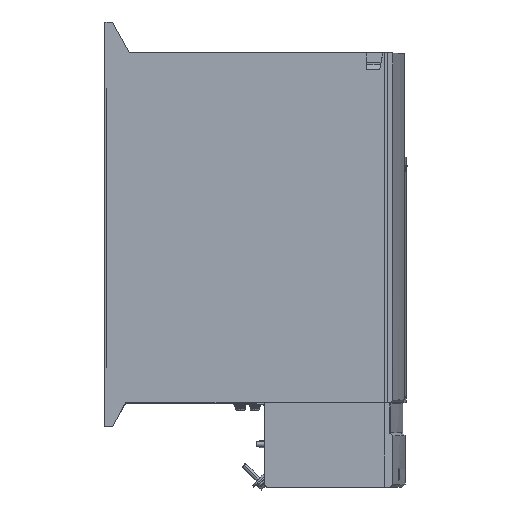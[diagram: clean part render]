
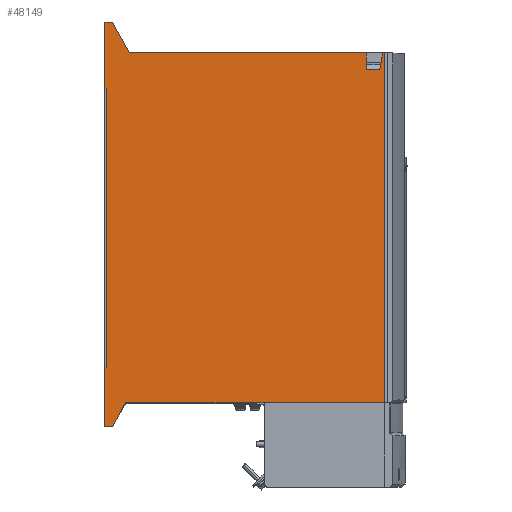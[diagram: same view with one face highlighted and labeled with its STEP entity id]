
A CAD part, top view. The second image highlights one B-rep face of the part: STEP entity #48149.
In plain terms, the highlighted planar face has unit normal (0, 0, 1) as drawn and (-1, 0, 0) by its records, which use the part's own axes.
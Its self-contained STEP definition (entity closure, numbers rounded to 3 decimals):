
#903 = EDGE_CURVE ( 'NONE', #97810, #115041, #116212, .T. ) ;
#2513 = CARTESIAN_POINT ( 'NONE',  ( -165., -19.5, 0. ) ) ;
#2800 = VECTOR ( 'NONE', #90644, 1000. ) ;
#4545 = CARTESIAN_POINT ( 'NONE',  ( -165., -19.5, 6.3 ) ) ;
#4649 = CARTESIAN_POINT ( 'NONE',  ( -165., 290., 216.709 ) ) ;
#5130 = CARTESIAN_POINT ( 'NONE',  ( -165., 290., 230.303 ) ) ;
#5271 = LINE ( 'NONE', #110428, #6246 ) ;
#6246 = VECTOR ( 'NONE', #45985, 1000. ) ;
#6581 = VECTOR ( 'NONE', #72841, 1000. ) ;
#7126 = DIRECTION ( 'NONE',  ( 0., 0., -1. ) ) ;
#7217 = CARTESIAN_POINT ( 'NONE',  ( -165., 290., 231.756 ) ) ;
#7991 = CARTESIAN_POINT ( 'NONE',  ( -165., 275.944, 0. ) ) ;
#8684 = DIRECTION ( 'NONE',  ( -1., 0., 0. ) ) ;
#9479 = LINE ( 'NONE', #7991, #6581 ) ;
#10113 = LINE ( 'NONE', #46988, #53268 ) ;
#10386 = VECTOR ( 'NONE', #70680, 1000. ) ;
#12027 = LINE ( 'NONE', #134929, #10386 ) ;
#17988 = VECTOR ( 'NONE', #57668, 1000. ) ;
#18248 = LINE ( 'NONE', #25414, #17988 ) ;
#18969 = FACE_OUTER_BOUND ( 'NONE', #44296, .T. ) ;
#21342 = CARTESIAN_POINT ( 'NONE',  ( -165., 0., 0. ) ) ;
#22595 = LINE ( 'NONE', #73825, #31031 ) ;
#25065 = ORIENTED_EDGE ( 'NONE', *, *, #47232, .T. ) ;
#25414 = CARTESIAN_POINT ( 'NONE',  ( -165., 315.5, 6.3 ) ) ;
#26269 = ORIENTED_EDGE ( 'NONE', *, *, #54315, .T. ) ;
#27148 = CARTESIAN_POINT ( 'NONE',  ( -165., -19.5, 0. ) ) ;
#28143 = VERTEX_POINT ( 'NONE', #52653 ) ;
#30653 = ORIENTED_EDGE ( 'NONE', *, *, #116059, .T. ) ;
#30764 = VERTEX_POINT ( 'NONE', #68361 ) ;
#31031 = VECTOR ( 'NONE', #94918, 1000. ) ;
#35058 = ORIENTED_EDGE ( 'NONE', *, *, #51977, .T. ) ;
#35842 = DIRECTION ( 'NONE',  ( 0., 0., -1. ) ) ;
#35965 = VERTEX_POINT ( 'NONE', #104144 ) ;
#37642 = CARTESIAN_POINT ( 'NONE',  ( -165., 29.4, 1.6 ) ) ;
#38850 = VERTEX_POINT ( 'NONE', #95515 ) ;
#39905 = CARTESIAN_POINT ( 'NONE',  ( -165., 315.5, 0. ) ) ;
#40144 = VERTEX_POINT ( 'NONE', #27148 ) ;
#41966 = CARTESIAN_POINT ( 'NONE',  ( -165., 0., 17.3 ) ) ;
#42510 = VERTEX_POINT ( 'NONE', #92894 ) ;
#43879 = ORIENTED_EDGE ( 'NONE', *, *, #106189, .T. ) ;
#44296 = EDGE_LOOP ( 'NONE', ( #97908, #53793, #43879, #96987, #45450, #114169, #26269, #91391, #60670, #25065, #35058, #103529, #105645, #120031, #30653, #120017 ) ) ;
#44330 = VECTOR ( 'NONE', #68526, 1000. ) ;
#45450 = ORIENTED_EDGE ( 'NONE', *, *, #131214, .T. ) ;
#45985 = DIRECTION ( 'NONE',  ( 0., 0., -1. ) ) ;
#46988 = CARTESIAN_POINT ( 'NONE',  ( -165., 260.3, 0. ) ) ;
#47232 = EDGE_CURVE ( 'NONE', #35965, #104871, #10113, .T. ) ;
#48149 = ADVANCED_FACE ( 'NONE', ( #18969 ), #116198, .T. ) ;
#48904 = VECTOR ( 'NONE', #7126, 1000. ) ;
#49277 = VERTEX_POINT ( 'NONE', #105977 ) ;
#50829 = DIRECTION ( 'NONE',  ( 0., 0., 1. ) ) ;
#51465 = LINE ( 'NONE', #71978, #48904 ) ;
#51977 = EDGE_CURVE ( 'NONE', #104871, #58364, #66334, .T. ) ;
#52653 = CARTESIAN_POINT ( 'NONE',  ( -165., 290., 20.3 ) ) ;
#53196 = DIRECTION ( 'NONE',  ( 0., -0.985, -0.174 ) ) ;
#53268 = VECTOR ( 'NONE', #67790, 1000. ) ;
#53793 = ORIENTED_EDGE ( 'NONE', *, *, #903, .T. ) ;
#54315 = EDGE_CURVE ( 'NONE', #28143, #82939, #18248, .T. ) ;
#54677 = EDGE_CURVE ( 'NONE', #106099, #40144, #12027, .T. ) ;
#55604 = LINE ( 'NONE', #4649, #2800 ) ;
#55993 = EDGE_CURVE ( 'NONE', #30764, #82939, #87030, .T. ) ;
#56191 = EDGE_CURVE ( 'NONE', #30764, #35965, #108801, .T. ) ;
#56536 = EDGE_CURVE ( 'NONE', #42510, #106981, #9479, .T. ) ;
#56781 = EDGE_CURVE ( 'NONE', #49277, #69584, #98007, .T. ) ;
#57668 = DIRECTION ( 'NONE',  ( 0., 0.877, -0.481 ) ) ;
#57682 = CARTESIAN_POINT ( 'NONE',  ( -165., 290., 231.756 ) ) ;
#58364 = VERTEX_POINT ( 'NONE', #37642 ) ;
#58989 = EDGE_CURVE ( 'NONE', #38850, #28143, #51465, .T. ) ;
#60670 = ORIENTED_EDGE ( 'NONE', *, *, #56191, .T. ) ;
#63213 = CARTESIAN_POINT ( 'NONE',  ( -165., 260.3, 1.6 ) ) ;
#63987 = CARTESIAN_POINT ( 'NONE',  ( -165., 290., 230.303 ) ) ;
#64539 = EDGE_CURVE ( 'NONE', #40144, #90270, #107437, .T. ) ;
#66309 = VECTOR ( 'NONE', #94330, 1000. ) ;
#66334 = LINE ( 'NONE', #83607, #66309 ) ;
#67790 = DIRECTION ( 'NONE',  ( 0., 0., 1. ) ) ;
#68361 = CARTESIAN_POINT ( 'NONE',  ( -165., 315.5, 0. ) ) ;
#68526 = DIRECTION ( 'NONE',  ( 0., 1., 0. ) ) ;
#69584 = VERTEX_POINT ( 'NONE', #41966 ) ;
#70680 = DIRECTION ( 'NONE',  ( 0., -1., 0. ) ) ;
#71978 = CARTESIAN_POINT ( 'NONE',  ( -165., 290., 0. ) ) ;
#72841 = DIRECTION ( 'NONE',  ( 0., 0., -1. ) ) ;
#73495 = CARTESIAN_POINT ( 'NONE',  ( -165., 290., 0. ) ) ;
#73825 = CARTESIAN_POINT ( 'NONE',  ( -165., -19.5, 6.3 ) ) ;
#75545 = EDGE_CURVE ( 'NONE', #58364, #106099, #5271, .T. ) ;
#78269 = DIRECTION ( 'NONE',  ( 0., 0., 1. ) ) ;
#82939 = VERTEX_POINT ( 'NONE', #114944 ) ;
#83607 = CARTESIAN_POINT ( 'NONE',  ( -165., 290., 1.6 ) ) ;
#84301 = DIRECTION ( 'NONE',  ( 0., 0., 1. ) ) ;
#86104 = DIRECTION ( 'NONE',  ( 0., -1., 0. ) ) ;
#87030 = LINE ( 'NONE', #39905, #123635 ) ;
#88273 = CARTESIAN_POINT ( 'NONE',  ( -165., 275.944, 216.709 ) ) ;
#90270 = VERTEX_POINT ( 'NONE', #4545 ) ;
#90644 = DIRECTION ( 'NONE',  ( 0., 1., 0. ) ) ;
#91391 = ORIENTED_EDGE ( 'NONE', *, *, #55993, .F. ) ;
#92894 = CARTESIAN_POINT ( 'NONE',  ( -165., 275.944, 227.824 ) ) ;
#93258 = AXIS2_PLACEMENT_3D ( 'NONE', #73495, #8684, #84301 ) ;
#94330 = DIRECTION ( 'NONE',  ( 0., -1., 0. ) ) ;
#94918 = DIRECTION ( 'NONE',  ( 0., 0.871, 0.491 ) ) ;
#95515 = CARTESIAN_POINT ( 'NONE',  ( -165., 290., 216.709 ) ) ;
#96987 = ORIENTED_EDGE ( 'NONE', *, *, #56536, .T. ) ;
#97810 = VERTEX_POINT ( 'NONE', #7217 ) ;
#97908 = ORIENTED_EDGE ( 'NONE', *, *, #127554, .T. ) ;
#98007 = LINE ( 'NONE', #100390, #130515 ) ;
#98518 = CARTESIAN_POINT ( 'NONE',  ( -165., 290., 0. ) ) ;
#98965 = DIRECTION ( 'NONE',  ( 0., 0., -1. ) ) ;
#100390 = CARTESIAN_POINT ( 'NONE',  ( -165., 0., 0. ) ) ;
#102079 = VECTOR ( 'NONE', #53196, 1000. ) ;
#103199 = LINE ( 'NONE', #63987, #102079 ) ;
#103529 = ORIENTED_EDGE ( 'NONE', *, *, #75545, .T. ) ;
#104144 = CARTESIAN_POINT ( 'NONE',  ( -165., 260.3, 0. ) ) ;
#104871 = VERTEX_POINT ( 'NONE', #63213 ) ;
#105645 = ORIENTED_EDGE ( 'NONE', *, *, #54677, .T. ) ;
#105977 = CARTESIAN_POINT ( 'NONE',  ( -165., 0., 231.756 ) ) ;
#106099 = VERTEX_POINT ( 'NONE', #137721 ) ;
#106189 = EDGE_CURVE ( 'NONE', #115041, #42510, #103199, .T. ) ;
#106981 = VERTEX_POINT ( 'NONE', #88273 ) ;
#107213 = VECTOR ( 'NONE', #78269, 1000. ) ;
#107437 = LINE ( 'NONE', #2513, #107213 ) ;
#108801 = LINE ( 'NONE', #21342, #112078 ) ;
#110428 = CARTESIAN_POINT ( 'NONE',  ( -165., 29.4, 0. ) ) ;
#112078 = VECTOR ( 'NONE', #86104, 1000. ) ;
#114169 = ORIENTED_EDGE ( 'NONE', *, *, #58989, .T. ) ;
#114850 = VECTOR ( 'NONE', #98965, 1000. ) ;
#114944 = CARTESIAN_POINT ( 'NONE',  ( -165., 315.5, 6.3 ) ) ;
#115041 = VERTEX_POINT ( 'NONE', #5130 ) ;
#116059 = EDGE_CURVE ( 'NONE', #90270, #69584, #22595, .T. ) ;
#116198 = PLANE ( 'NONE',  #93258 ) ;
#116212 = LINE ( 'NONE', #98518, #114850 ) ;
#120017 = ORIENTED_EDGE ( 'NONE', *, *, #56781, .F. ) ;
#120031 = ORIENTED_EDGE ( 'NONE', *, *, #64539, .T. ) ;
#123635 = VECTOR ( 'NONE', #50829, 1000. ) ;
#127554 = EDGE_CURVE ( 'NONE', #49277, #97810, #134352, .T. ) ;
#130515 = VECTOR ( 'NONE', #35842, 1000. ) ;
#131214 = EDGE_CURVE ( 'NONE', #106981, #38850, #55604, .T. ) ;
#134352 = LINE ( 'NONE', #57682, #44330 ) ;
#134929 = CARTESIAN_POINT ( 'NONE',  ( -165., 290., 0. ) ) ;
#137721 = CARTESIAN_POINT ( 'NONE',  ( -165., 29.4, 0. ) ) ;
